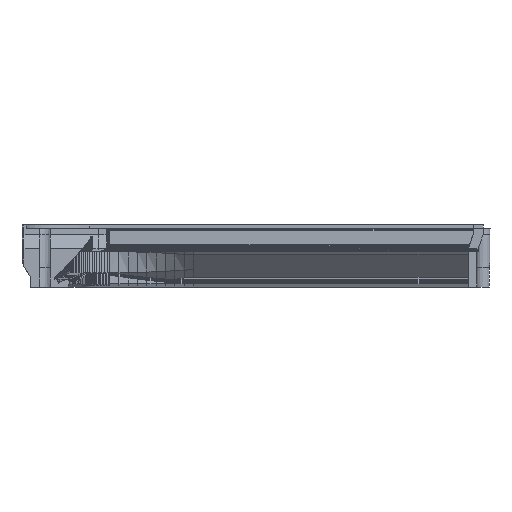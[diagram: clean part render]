
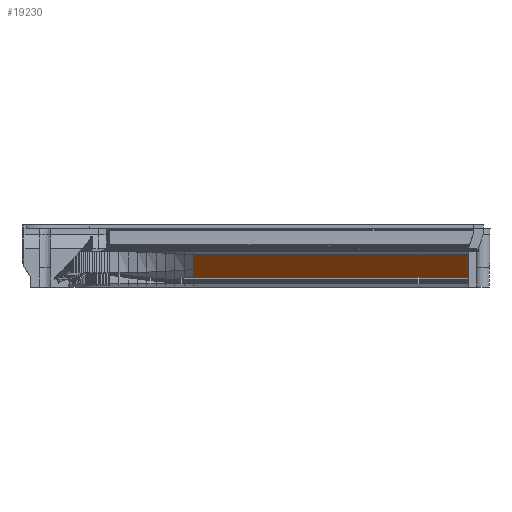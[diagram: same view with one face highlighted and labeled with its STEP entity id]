
A CAD part, left-side view. The second image highlights one B-rep face of the part: STEP entity #19230.
In plain terms, the highlighted planar face has unit normal (-0.707, 0, -0.707).
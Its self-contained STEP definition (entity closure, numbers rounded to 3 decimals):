
#2249 = PLANE('',#2250);
#2250 = AXIS2_PLACEMENT_3D('',#2251,#2252,#2253);
#2251 = CARTESIAN_POINT('',(164.4,0.1,8.));
#2252 = DIRECTION('',(0.,-1.,0.));
#2253 = DIRECTION('',(1.,0.,0.));
#8159 = VERTEX_POINT('',#8160);
#8160 = CARTESIAN_POINT('',(172.995,0.1,13.005));
#8173 = PLANE('',#8174);
#8174 = AXIS2_PLACEMENT_3D('',#8175,#8176,#8177);
#8175 = CARTESIAN_POINT('',(172.995,110.7,13.005));
#8176 = DIRECTION('',(-0.777,0.,-0.63));
#8177 = DIRECTION('',(-0.63,0.,0.777));
#8184 = EDGE_CURVE('',#8185,#8159,#8187,.T.);
#8185 = VERTEX_POINT('',#8186);
#8186 = CARTESIAN_POINT('',(182.,0.1,4.));
#8187 = SURFACE_CURVE('',#8188,(#8192,#8198),.PCURVE_S1.);
#8188 = LINE('',#8189,#8190);
#8189 = CARTESIAN_POINT('',(176.6,0.1,9.4));
#8190 = VECTOR('',#8191,1.);
#8191 = DIRECTION('',(-0.707,0.,0.707));
#8192 = PCURVE('',#2249,#8193);
#8193 = DEFINITIONAL_REPRESENTATION('',(#8194),#8197);
#8194 = B_SPLINE_CURVE_WITH_KNOTS('',1,(#8195,#8196),.UNSPECIFIED.,.F.,
  .F.,(2,2),(-7.637,5.099),.PIECEWISE_BEZIER_KNOTS.);
#8195 = CARTESIAN_POINT('',(17.6,-4.));
#8196 = CARTESIAN_POINT('',(8.595,5.005));
#8197 = ( GEOMETRIC_REPRESENTATION_CONTEXT(2) 
PARAMETRIC_REPRESENTATION_CONTEXT() REPRESENTATION_CONTEXT('2D SPACE',''
  ) );
#8198 = PCURVE('',#8199,#8204);
#8199 = PLANE('',#8200);
#8200 = AXIS2_PLACEMENT_3D('',#8201,#8202,#8203);
#8201 = CARTESIAN_POINT('',(182.,110.7,4.));
#8202 = DIRECTION('',(-0.707,0.,-0.707));
#8203 = DIRECTION('',(-0.707,0.,0.707));
#8204 = DEFINITIONAL_REPRESENTATION('',(#8205),#8208);
#8205 = B_SPLINE_CURVE_WITH_KNOTS('',1,(#8206,#8207),.UNSPECIFIED.,.F.,
  .F.,(2,2),(-7.637,5.099),.PIECEWISE_BEZIER_KNOTS.);
#8206 = CARTESIAN_POINT('',(0.,-110.6));
#8207 = CARTESIAN_POINT('',(12.735,-110.6));
#8208 = ( GEOMETRIC_REPRESENTATION_CONTEXT(2) 
PARAMETRIC_REPRESENTATION_CONTEXT() REPRESENTATION_CONTEXT('2D SPACE',''
  ) );
#8225 = PLANE('',#8226);
#8226 = AXIS2_PLACEMENT_3D('',#8227,#8228,#8229);
#8227 = CARTESIAN_POINT('',(182.,-166.,2.8));
#8228 = DIRECTION('',(-1.,0.,0.));
#8229 = DIRECTION('',(0.,1.,0.));
#19033 = VERTEX_POINT('',#19034);
#19034 = CARTESIAN_POINT('',(182.,110.4,4.));
#19048 = B_SPLINE_SURFACE_WITH_KNOTS('',1,1,(
    (#19049,#19050)
    ,(#19051,#19052
    )),.UNSPECIFIED.,.F.,.F.,.F.,(2,2),(2,2),(0.,4.464),(0.,1.)
  ,.PIECEWISE_BEZIER_KNOTS.);
#19049 = CARTESIAN_POINT('',(182.,110.4,4.));
#19050 = CARTESIAN_POINT('',(182.,114.133,3.685));
#19051 = CARTESIAN_POINT('',(179.005,110.4,6.995));
#19052 = CARTESIAN_POINT('',(178.844,114.133,
    6.842));
#19213 = EDGE_CURVE('',#8185,#19033,#19214,.T.);
#19214 = SURFACE_CURVE('',#19215,(#19218,#19224),.PCURVE_S1.);
#19215 = B_SPLINE_CURVE_WITH_KNOTS('',1,(#19216,#19217),.UNSPECIFIED.,
  .F.,.F.,(2,2),(0.,1.),.PIECEWISE_BEZIER_KNOTS.);
#19216 = CARTESIAN_POINT('',(182.,-110.7,4.));
#19217 = CARTESIAN_POINT('',(182.,110.7,4.));
#19218 = PCURVE('',#8225,#19219);
#19219 = DEFINITIONAL_REPRESENTATION('',(#19220),#19223);
#19220 = B_SPLINE_CURVE_WITH_KNOTS('',1,(#19221,#19222),.UNSPECIFIED.,
  .F.,.F.,(2,2),(0.,1.),.PIECEWISE_BEZIER_KNOTS.);
#19221 = CARTESIAN_POINT('',(55.3,-1.2));
#19222 = CARTESIAN_POINT('',(276.7,-1.2));
#19223 = ( GEOMETRIC_REPRESENTATION_CONTEXT(2) 
PARAMETRIC_REPRESENTATION_CONTEXT() REPRESENTATION_CONTEXT('2D SPACE',''
  ) );
#19224 = PCURVE('',#8199,#19225);
#19225 = DEFINITIONAL_REPRESENTATION('',(#19226),#19229);
#19226 = B_SPLINE_CURVE_WITH_KNOTS('',1,(#19227,#19228),.UNSPECIFIED.,
  .F.,.F.,(2,2),(0.,1.),.PIECEWISE_BEZIER_KNOTS.);
#19227 = CARTESIAN_POINT('',(0.,-221.4));
#19228 = CARTESIAN_POINT('',(0.,0.));
#19229 = ( GEOMETRIC_REPRESENTATION_CONTEXT(2) 
PARAMETRIC_REPRESENTATION_CONTEXT() REPRESENTATION_CONTEXT('2D SPACE',''
  ) );
#19230 = ADVANCED_FACE('',(#19231),#8199,.T.);
#19231 = FACE_BOUND('',#19232,.T.);
#19232 = EDGE_LOOP('',(#19233,#19234,#19235,#19255,#19283));
#19233 = ORIENTED_EDGE('',*,*,#19213,.F.);
#19234 = ORIENTED_EDGE('',*,*,#8184,.T.);
#19235 = ORIENTED_EDGE('',*,*,#19236,.T.);
#19236 = EDGE_CURVE('',#8159,#19237,#19239,.T.);
#19237 = VERTEX_POINT('',#19238);
#19238 = CARTESIAN_POINT('',(172.995,110.4,13.005));
#19239 = SURFACE_CURVE('',#19240,(#19243,#19249),.PCURVE_S1.);
#19240 = B_SPLINE_CURVE_WITH_KNOTS('',1,(#19241,#19242),.UNSPECIFIED.,
  .F.,.F.,(2,2),(0.,1.),.PIECEWISE_BEZIER_KNOTS.);
#19241 = CARTESIAN_POINT('',(172.995,-110.7,13.005));
#19242 = CARTESIAN_POINT('',(172.995,110.7,13.005));
#19243 = PCURVE('',#8199,#19244);
#19244 = DEFINITIONAL_REPRESENTATION('',(#19245),#19248);
#19245 = B_SPLINE_CURVE_WITH_KNOTS('',1,(#19246,#19247),.UNSPECIFIED.,
  .F.,.F.,(2,2),(0.,1.),.PIECEWISE_BEZIER_KNOTS.);
#19246 = CARTESIAN_POINT('',(12.735,-221.4));
#19247 = CARTESIAN_POINT('',(12.735,0.));
#19248 = ( GEOMETRIC_REPRESENTATION_CONTEXT(2) 
PARAMETRIC_REPRESENTATION_CONTEXT() REPRESENTATION_CONTEXT('2D SPACE',''
  ) );
#19249 = PCURVE('',#8173,#19250);
#19250 = DEFINITIONAL_REPRESENTATION('',(#19251),#19254);
#19251 = B_SPLINE_CURVE_WITH_KNOTS('',1,(#19252,#19253),.UNSPECIFIED.,
  .F.,.F.,(2,2),(0.,1.),.PIECEWISE_BEZIER_KNOTS.);
#19252 = CARTESIAN_POINT('',(0.,-221.4));
#19253 = CARTESIAN_POINT('',(0.,0.));
#19254 = ( GEOMETRIC_REPRESENTATION_CONTEXT(2) 
PARAMETRIC_REPRESENTATION_CONTEXT() REPRESENTATION_CONTEXT('2D SPACE',''
  ) );
#19255 = ORIENTED_EDGE('',*,*,#19256,.F.);
#19256 = EDGE_CURVE('',#19257,#19237,#19259,.T.);
#19257 = VERTEX_POINT('',#19258);
#19258 = CARTESIAN_POINT('',(179.005,110.4,6.995));
#19259 = SURFACE_CURVE('',#19260,(#19264,#19271),.PCURVE_S1.);
#19260 = LINE('',#19261,#19262);
#19261 = CARTESIAN_POINT('',(179.005,110.4,6.995));
#19262 = VECTOR('',#19263,1.);
#19263 = DIRECTION('',(-0.707,0.,0.707));
#19264 = PCURVE('',#8199,#19265);
#19265 = DEFINITIONAL_REPRESENTATION('',(#19266),#19270);
#19266 = LINE('',#19267,#19268);
#19267 = CARTESIAN_POINT('',(4.235,-0.3));
#19268 = VECTOR('',#19269,1.);
#19269 = DIRECTION('',(1.,0.));
#19270 = ( GEOMETRIC_REPRESENTATION_CONTEXT(2) 
PARAMETRIC_REPRESENTATION_CONTEXT() REPRESENTATION_CONTEXT('2D SPACE',''
  ) );
#19271 = PCURVE('',#19272,#19277);
#19272 = B_SPLINE_SURFACE_WITH_KNOTS('',1,1,(
    (#19273,#19274)
    ,(#19275,#19276
    )),.UNSPECIFIED.,.F.,.F.,.F.,(2,2),(2,2),(0.,8.5),(0.,1.),
  .PIECEWISE_BEZIER_KNOTS.);
#19273 = CARTESIAN_POINT('',(179.005,110.4,6.995));
#19274 = CARTESIAN_POINT('',(178.844,114.133,
    6.842));
#19275 = CARTESIAN_POINT('',(172.995,110.4,13.005));
#19276 = CARTESIAN_POINT('',(173.156,114.133,
    13.158));
#19277 = DEFINITIONAL_REPRESENTATION('',(#19278),#19282);
#19278 = LINE('',#19279,#19280);
#19279 = CARTESIAN_POINT('',(0.,0.));
#19280 = VECTOR('',#19281,1.);
#19281 = DIRECTION('',(1.,0.));
#19282 = ( GEOMETRIC_REPRESENTATION_CONTEXT(2) 
PARAMETRIC_REPRESENTATION_CONTEXT() REPRESENTATION_CONTEXT('2D SPACE',''
  ) );
#19283 = ORIENTED_EDGE('',*,*,#19284,.F.);
#19284 = EDGE_CURVE('',#19033,#19257,#19285,.T.);
#19285 = SURFACE_CURVE('',#19286,(#19290,#19297),.PCURVE_S1.);
#19286 = LINE('',#19287,#19288);
#19287 = CARTESIAN_POINT('',(182.,110.4,4.));
#19288 = VECTOR('',#19289,1.);
#19289 = DIRECTION('',(-0.707,0.,0.707));
#19290 = PCURVE('',#8199,#19291);
#19291 = DEFINITIONAL_REPRESENTATION('',(#19292),#19296);
#19292 = LINE('',#19293,#19294);
#19293 = CARTESIAN_POINT('',(0.,-0.3));
#19294 = VECTOR('',#19295,1.);
#19295 = DIRECTION('',(1.,0.));
#19296 = ( GEOMETRIC_REPRESENTATION_CONTEXT(2) 
PARAMETRIC_REPRESENTATION_CONTEXT() REPRESENTATION_CONTEXT('2D SPACE',''
  ) );
#19297 = PCURVE('',#19048,#19298);
#19298 = DEFINITIONAL_REPRESENTATION('',(#19299),#19302);
#19299 = B_SPLINE_CURVE_WITH_KNOTS('',1,(#19300,#19301),.UNSPECIFIED.,
  .F.,.F.,(2,2),(0.,4.235),.PIECEWISE_BEZIER_KNOTS.);
#19300 = CARTESIAN_POINT('',(0.,0.));
#19301 = CARTESIAN_POINT('',(4.464,0.));
#19302 = ( GEOMETRIC_REPRESENTATION_CONTEXT(2) 
PARAMETRIC_REPRESENTATION_CONTEXT() REPRESENTATION_CONTEXT('2D SPACE',''
  ) );
